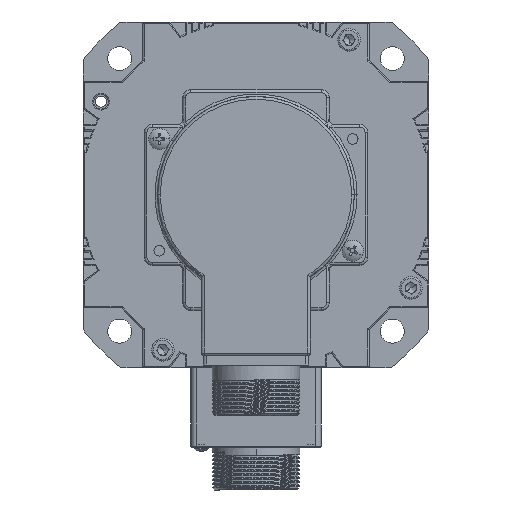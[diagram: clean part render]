
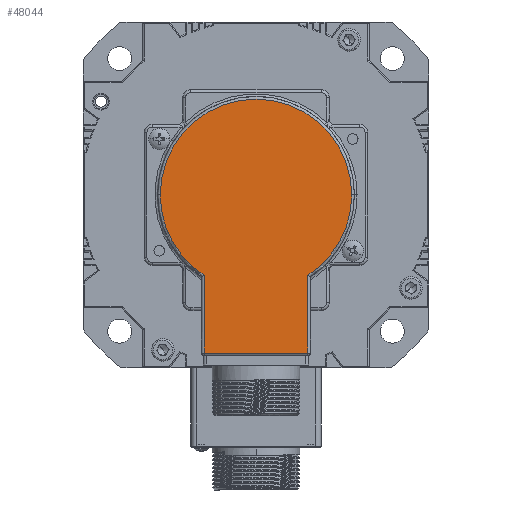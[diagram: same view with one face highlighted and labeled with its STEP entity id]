
A CAD part, front view. The second image highlights one B-rep face of the part: STEP entity #48044.
In plain terms, the highlighted planar face has unit normal (0, -1, 0) as drawn and (0, 0, -1) by its records, which use the part's own axes.
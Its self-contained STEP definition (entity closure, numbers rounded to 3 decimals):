
#1143 = AXIS2_PLACEMENT_3D ( 'NONE', #52900, #16686, #59029 ) ;
#4554 = EDGE_CURVE ( 'NONE', #35594, #47197, #9641, .T. ) ;
#4696 = EDGE_CURVE ( 'NONE', #47263, #29392, #7702, .T. ) ;
#4804 = EDGE_CURVE ( 'NONE', #19080, #47263, #28549, .T. ) ;
#7297 = ORIENTED_EDGE ( 'NONE', *, *, #30408, .T. ) ;
#7702 = LINE ( 'NONE', #62321, #66409 ) ;
#9433 = CARTESIAN_POINT ( 'NONE',  ( 20.5, 59.5, -33. ) ) ;
#9641 = LINE ( 'NONE', #71148, #39894 ) ;
#10176 = CARTESIAN_POINT ( 'NONE',  ( 0., 0., -33. ) ) ;
#10594 = PLANE ( 'NONE',  #1143 ) ;
#10749 = DIRECTION ( 'NONE',  ( 0., -1., 0. ) ) ;
#15053 = EDGE_LOOP ( 'NONE', ( #74926, #66282, #33579, #67273, #7297, #21697 ) ) ;
#15726 = VECTOR ( 'NONE', #58112, 1000. ) ;
#16251 = DIRECTION ( 'NONE',  ( -1., 0., 0. ) ) ;
#16686 = DIRECTION ( 'NONE',  ( 0., 0., -1. ) ) ;
#16708 = DIRECTION ( 'NONE',  ( 0., 0., -1. ) ) ;
#17503 = EDGE_CURVE ( 'NONE', #29392, #35594, #31761, .T. ) ;
#18790 = CARTESIAN_POINT ( 'NONE',  ( 0., 0., -33. ) ) ;
#19080 = VERTEX_POINT ( 'NONE', #53286 ) ;
#21697 = ORIENTED_EDGE ( 'NONE', *, *, #4804, .T. ) ;
#24899 = DIRECTION ( 'NONE',  ( -1., 0., 0. ) ) ;
#26351 = DIRECTION ( 'NONE',  ( 0., 1., 0. ) ) ;
#28549 = CIRCLE ( 'NONE', #54921, 36. ) ;
#29392 = VERTEX_POINT ( 'NONE', #56689 ) ;
#30408 = EDGE_CURVE ( 'NONE', #55597, #19080, #62074, .T. ) ;
#31761 = LINE ( 'NONE', #9433, #15726 ) ;
#33579 = ORIENTED_EDGE ( 'NONE', *, *, #4554, .T. ) ;
#35594 = VERTEX_POINT ( 'NONE', #54626 ) ;
#39295 = CARTESIAN_POINT ( 'NONE',  ( 36., 0., -33. ) ) ;
#39603 = CIRCLE ( 'NONE', #45507, 36. ) ;
#39894 = VECTOR ( 'NONE', #10749, 1000. ) ;
#45507 = AXIS2_PLACEMENT_3D ( 'NONE', #52923, #16708, #59050 ) ;
#46161 = FACE_OUTER_BOUND ( 'NONE', #15053, .T. ) ;
#47197 = VERTEX_POINT ( 'NONE', #54011 ) ;
#47263 = VERTEX_POINT ( 'NONE', #60661 ) ;
#48044 = ADVANCED_FACE ( 'NONE', ( #46161 ), #10594, .T. ) ;
#52456 = DIRECTION ( 'NONE',  ( 0., 0., -1. ) ) ;
#52900 = CARTESIAN_POINT ( 'NONE',  ( 0., 0., -33. ) ) ;
#52923 = CARTESIAN_POINT ( 'NONE',  ( 0., 0., -33. ) ) ;
#53286 = CARTESIAN_POINT ( 'NONE',  ( -36., 0., -33. ) ) ;
#53321 = EDGE_CURVE ( 'NONE', #47197, #55597, #39603, .T. ) ;
#54011 = CARTESIAN_POINT ( 'NONE',  ( 19.5, 30.261, -33. ) ) ;
#54626 = CARTESIAN_POINT ( 'NONE',  ( 19.5, 59.5, -33. ) ) ;
#54921 = AXIS2_PLACEMENT_3D ( 'NONE', #10176, #52456, #16251 ) ;
#55597 = VERTEX_POINT ( 'NONE', #39295 ) ;
#56689 = CARTESIAN_POINT ( 'NONE',  ( -19.5, 59.5, -33. ) ) ;
#58112 = DIRECTION ( 'NONE',  ( 1., 0., 0. ) ) ;
#59029 = DIRECTION ( 'NONE',  ( 0., -1., 0. ) ) ;
#59050 = DIRECTION ( 'NONE',  ( -1., 0., 0. ) ) ;
#60661 = CARTESIAN_POINT ( 'NONE',  ( -19.5, 30.261, -33. ) ) ;
#61132 = DIRECTION ( 'NONE',  ( 0., 0., -1. ) ) ;
#62074 = CIRCLE ( 'NONE', #67703, 36. ) ;
#62321 = CARTESIAN_POINT ( 'NONE',  ( -19.5, 60.5, -33. ) ) ;
#66282 = ORIENTED_EDGE ( 'NONE', *, *, #17503, .T. ) ;
#66409 = VECTOR ( 'NONE', #26351, 1000. ) ;
#67273 = ORIENTED_EDGE ( 'NONE', *, *, #53321, .T. ) ;
#67703 = AXIS2_PLACEMENT_3D ( 'NONE', #18790, #61132, #24899 ) ;
#71148 = CARTESIAN_POINT ( 'NONE',  ( 19.5, 30.802, -33. ) ) ;
#74926 = ORIENTED_EDGE ( 'NONE', *, *, #4696, .T. ) ;
